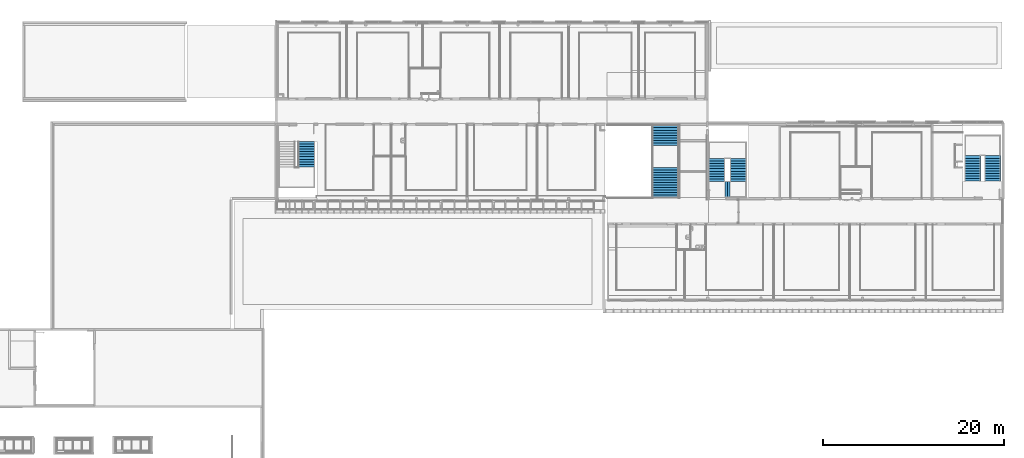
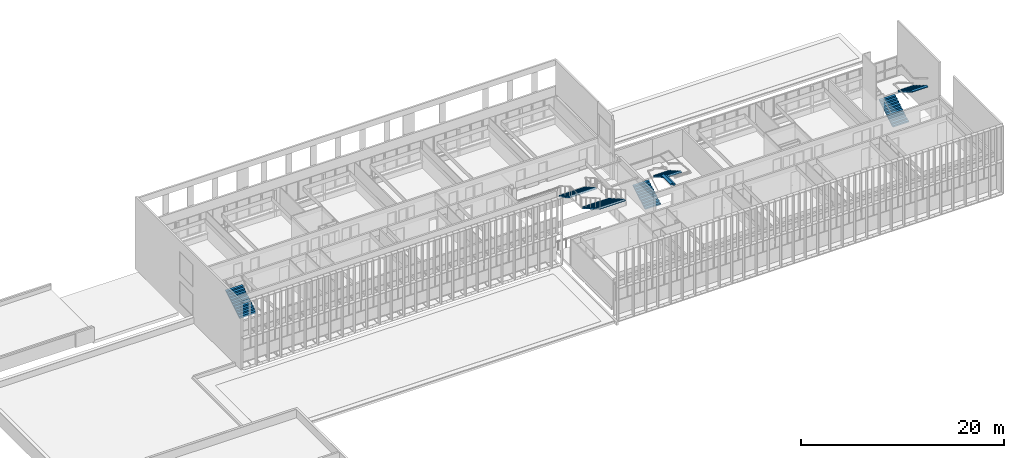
# One storey, part 100 of 106: 8 stair flights, 4 elements without a shape of their own.
"""IFC2X3 building model written with IfcOpenShell, lengths in centimetres."""

from ifc_helpers import new_model, entity, si_unit, converted_unit, derived_unit, direction, frame, origin, place, context, subcontext, project, spatial, faceted_brep, material, element, aggregate, save


model = new_model("IFC2X3")

# Units and contexts
model_context = context("Model", 3, precision=0.001, world=origin(), true_north=direction((6.12303176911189e-17, 1.0)))
body_context = subcontext(model_context, "Body", "Model", "MODEL_VIEW")
ifc_project = project(units=[si_unit("LENGTHUNIT", "METRE", prefix="CENTI"), si_unit("AREAUNIT", "SQUARE_METRE"), si_unit("VOLUMEUNIT", "CUBIC_METRE"), converted_unit("PLANEANGLEUNIT", "DEGREE", entity("IfcRatioMeasure", 0.0174532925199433), si_unit("PLANEANGLEUNIT", "RADIAN"), dimensions=[0, 0, 0, 0, 0, 0, 0]), si_unit("MASSUNIT", "GRAM", prefix="KILO"), derived_unit("MASSDENSITYUNIT", [(si_unit("MASSUNIT", "GRAM", prefix="KILO"), 1), (si_unit("LENGTHUNIT", "METRE"), -3)]), si_unit("TIMEUNIT", "SECOND"), si_unit("FREQUENCYUNIT", "HERTZ"), si_unit("THERMODYNAMICTEMPERATUREUNIT", "DEGREE_CELSIUS"), derived_unit("THERMALTRANSMITTANCEUNIT", [(si_unit("MASSUNIT", "GRAM", prefix="KILO"), 1), (si_unit("THERMODYNAMICTEMPERATUREUNIT", "KELVIN"), -1), (si_unit("TIMEUNIT", "SECOND"), -3)]), derived_unit("VOLUMETRICFLOWRATEUNIT", [(si_unit("LENGTHUNIT", "METRE"), 3), (si_unit("TIMEUNIT", "SECOND"), -1)]), si_unit("ELECTRICCURRENTUNIT", "AMPERE"), si_unit("ELECTRICVOLTAGEUNIT", "VOLT"), si_unit("POWERUNIT", "WATT"), si_unit("FORCEUNIT", "NEWTON", prefix="KILO"), si_unit("ILLUMINANCEUNIT", "LUX"), si_unit("LUMINOUSFLUXUNIT", "LUMEN"), si_unit("LUMINOUSINTENSITYUNIT", "CANDELA"), derived_unit("USERDEFINED", [(si_unit("MASSUNIT", "GRAM", prefix="KILO"), -1), (si_unit("LENGTHUNIT", "METRE"), -2), (si_unit("TIMEUNIT", "SECOND"), 3), (si_unit("LUMINOUSFLUXUNIT", "LUMEN"), 1)]), derived_unit("LINEARVELOCITYUNIT", [(si_unit("LENGTHUNIT", "METRE"), 1), (si_unit("TIMEUNIT", "SECOND"), -1)]), si_unit("PRESSUREUNIT", "PASCAL"), derived_unit("USERDEFINED", [(si_unit("LENGTHUNIT", "METRE"), -2), (si_unit("MASSUNIT", "GRAM", prefix="KILO"), 1), (si_unit("TIMEUNIT", "SECOND"), -2)])], contexts=[model_context])

# Site, building, storey
site_placement = place(None, frame((-2781.94577612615, 7442.24238424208, 0.0)))
site = spatial("IfcSite", under=ifc_project, at=site_placement, Name="Default", CompositionType="ELEMENT")
building_placement = place(site_placement, origin())
building = spatial("IfcBuilding", under=site, at=building_placement, CompositionType="ELEMENT")
storey_placement = place(building_placement, frame((0.0, 0.0, 422.0)))
storey = spatial("IfcBuildingStorey", under=building, at=storey_placement, Name="Toiture - Cuisine", CompositionType="ELEMENT", Elevation=421.999999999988)

# Stair, stair flights
stair_1_placement = place(building_placement, frame((0.0, 0.0, 422.0)))
stair_1 = element("IfcStair", 1, at=stair_1_placement, inside=storey, Name="Escalier coulé sur place:Escalier", ObjectType="Escalier coulé sur place:Monobloc", ShapeType="NOTDEFINED")
ifc_material = material(Name="Maçonnerie - Béton")
stair_flight_1_placement = place(stair_1_placement, frame((-4274.99987968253, -1334.0, 0.0)))
stair_flight_1 = element("IfcStairFlight", 2, at=stair_flight_1_placement, material=ifc_material, Name="Escalier coulé sur place:Escalier:223221 Run 1", ObjectType="Volée monobloc:Profondeur de structure 80 mm", NumberOfRiser=9, NumberOfTreads=8, RiserHeight=0.5249343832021, TreadLength=0.918635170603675, context=body_context, shape_type="Brep", body=[
    faceted_brep([(305.0, 196.0, 16.0), (305.0, 224.0, 16.0), (0.0, 224.0, 16.0), (0.0, 196.0, 16.0), (305.0, 196.0, 6.78599114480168), (305.0, 207.875484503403, 0.0), (305.0, 224.0, 0.0), (0.0, 224.0, 0.0), (0.0, 207.875484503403, 0.0), (0.0, 196.0, 6.78599114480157), (305.0, 168.0, 32.0), (305.0, 196.0, 32.0), (0.0, 196.0, 32.0), (0.0, 168.0, 32.0), (305.0, 168.0, 22.7859911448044), (0.0, 168.0, 22.7859911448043), (305.0, 140.0, 48.0), (305.0, 168.0, 48.0), (0.0, 168.0, 48.0), (0.0, 140.0, 48.0), (305.0, 140.0, 38.7859911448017), (0.0, 140.0, 38.7859911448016), (305.0, 112.0, 64.0), (305.0, 140.0, 64.0), (0.0, 140.0, 64.0), (0.0, 112.0, 64.0), (305.0, 112.0, 54.7859911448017), (0.0, 112.0, 54.7859911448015), (305.0, 84.0, 80.0), (305.0, 112.0, 80.0), (0.0, 112.0, 80.0), (0.0, 84.0, 80.0), (305.0, 84.0, 70.7859911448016), (0.0, 84.0, 70.7859911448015), (305.0, 56.0, 96.0), (305.0, 84.0, 96.0), (0.0, 84.0, 96.0), (0.0, 56.0, 96.0), (305.0, 56.0, 86.7859911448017), (0.0, 56.0, 86.7859911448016), (305.0, 28.0, 112.0), (305.0, 56.0, 112.0), (0.0, 56.0, 112.0), (0.0, 28.0, 112.0), (305.0, 28.0, 102.785991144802), (0.0, 28.0, 102.785991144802), (305.0, 0.0, 128.0), (305.0, 28.0, 128.0), (0.0, 28.0, 128.0), (0.0, 0.0, 128.0), (305.0, 0.0, 118.785991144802), (0.0, 0.0, 118.785991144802)], [[[0, 1, 2, 3]], [[1, 0, 4, 5, 6]], [[2, 1, 6, 7]], [[3, 2, 7, 8, 9]], [[10, 11, 12, 13]], [[11, 10, 14, 4, 0]], [[0, 3, 12, 11]], [[13, 12, 3, 9, 15]], [[16, 17, 18, 19]], [[17, 16, 20, 14, 10]], [[10, 13, 18, 17]], [[19, 18, 13, 15, 21]], [[22, 23, 24, 25]], [[23, 22, 26, 20, 16]], [[16, 19, 24, 23]], [[25, 24, 19, 21, 27]], [[28, 29, 30, 31]], [[29, 28, 32, 26, 22]], [[22, 25, 30, 29]], [[31, 30, 25, 27, 33]], [[34, 35, 36, 37]], [[35, 34, 38, 32, 28]], [[28, 31, 36, 35]], [[37, 36, 31, 33, 39]], [[40, 41, 42, 43]], [[41, 40, 44, 38, 34]], [[34, 37, 42, 41]], [[43, 42, 37, 39, 45]], [[46, 47, 48, 49]], [[47, 46, 50, 44, 40]], [[40, 43, 48, 47]], [[49, 48, 43, 45, 51]], [[46, 49, 51, 50]], [[7, 6, 5, 8]], [[8, 5, 4, 14, 20, 26, 32, 38, 44, 50, 51, 45, 39, 33, 27, 21, 15, 9]]]),
])
stair_flight_2_placement = place(stair_1_placement, frame((-4274.99987968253, -1910.07903364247, 0.0)))
stair_flight_2 = element("IfcStairFlight", 3, at=stair_flight_2_placement, material=ifc_material, Name="Escalier coulé sur place:Escalier:223221 Run 2", ObjectType="Volée monobloc:Profondeur de structure 80 mm", NumberOfRiser=13, NumberOfTreads=12, RiserHeight=0.5249343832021, TreadLength=0.918635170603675, context=body_context, shape_type="Brep", body=[
    faceted_brep([(305.0, 308.0, 160.0), (305.0, 336.0, 160.0), (0.0, 336.0, 160.0), (0.0, 308.0, 160.0), (305.0, 308.0, 150.785991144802), (305.0, 336.0, 134.785991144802), (305.0, 336.0, 144.0), (0.0, 336.0, 134.785991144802), (0.0, 336.0, 144.0), (0.0, 308.0, 150.785991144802), (305.0, 280.0, 176.0), (305.0, 308.0, 176.0), (0.0, 308.0, 176.0), (0.0, 280.0, 176.0), (305.0, 280.0, 166.785991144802), (0.0, 280.0, 166.785991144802), (305.0, 252.0, 192.0), (305.0, 280.0, 192.0), (0.0, 280.0, 192.0), (0.0, 252.0, 192.0), (305.0, 252.0, 182.785991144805), (0.0, 252.0, 182.785991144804), (305.0, 224.0, 208.0), (305.0, 252.0, 208.0), (0.0, 252.0, 208.0), (0.0, 224.0, 208.0), (305.0, 224.0, 198.785991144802), (0.0, 224.0, 198.785991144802), (305.0, 196.0, 224.0), (305.0, 224.0, 224.0), (0.0, 224.0, 224.0), (0.0, 196.0, 224.0), (305.0, 196.0, 214.785991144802), (0.0, 196.0, 214.785991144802), (305.0, 168.0, 240.0), (305.0, 196.0, 240.0), (0.0, 196.0, 240.0), (0.0, 168.0, 240.0), (305.0, 168.0, 230.785991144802), (0.0, 168.0, 230.785991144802), (305.0, 140.0, 256.0), (305.0, 168.0, 256.0), (0.0, 168.0, 256.0), (0.0, 140.0, 256.0), (305.0, 140.0, 246.785991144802), (0.0, 140.0, 246.785991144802), (305.0, 112.0, 272.0), (305.0, 140.0, 272.0), (0.0, 140.0, 272.0), (0.0, 112.0, 272.0), (305.0, 112.0, 262.785991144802), (0.0, 112.0, 262.785991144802), (305.0, 84.0, 278.785991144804), (305.0, 56.0, 294.785991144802), (305.0, 28.0, 310.785991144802), (305.0, 0.0, 326.785991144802), (0.0, 0.0, 326.785991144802), (0.0, 28.0, 310.785991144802), (0.0, 56.0, 294.785991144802), (0.0, 84.0, 278.785991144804), (305.0, 84.0, 288.0), (305.0, 112.0, 288.0), (0.0, 112.0, 288.0), (0.0, 84.0, 288.0), (305.0, 56.0, 304.0), (305.0, 84.0, 304.0), (0.0, 84.0, 304.0), (0.0, 56.0, 304.0), (305.0, 28.0, 320.0), (305.0, 56.0, 320.0), (0.0, 56.0, 320.0), (0.0, 28.0, 320.0), (305.0, 0.0, 336.0), (305.0, 28.0, 336.0), (0.0, 28.0, 336.0), (0.0, 0.0, 336.0)], [[[0, 1, 2, 3]], [[1, 0, 4, 5, 6]], [[2, 1, 6, 5, 7, 8]], [[3, 2, 8, 7, 9]], [[10, 11, 12, 13]], [[11, 10, 14, 4, 0]], [[12, 11, 0, 3]], [[13, 12, 3, 9, 15]], [[16, 17, 18, 19]], [[17, 16, 20, 14, 10]], [[18, 17, 10, 13]], [[19, 18, 13, 15, 21]], [[22, 23, 24, 25]], [[23, 22, 26, 20, 16]], [[24, 23, 16, 19]], [[25, 24, 19, 21, 27]], [[28, 29, 30, 31]], [[29, 28, 32, 26, 22]], [[30, 29, 22, 25]], [[31, 30, 25, 27, 33]], [[34, 35, 36, 37]], [[35, 34, 38, 32, 28]], [[36, 35, 28, 31]], [[37, 36, 31, 33, 39]], [[40, 41, 42, 43]], [[41, 40, 44, 38, 34]], [[42, 41, 34, 37]], [[43, 42, 37, 39, 45]], [[46, 47, 48, 49]], [[47, 46, 50, 44, 40]], [[48, 47, 40, 43]], [[49, 48, 43, 45, 51]], [[5, 4, 14, 20, 26, 32, 38, 44, 50, 52, 53, 54, 55, 56, 57, 58, 59, 51, 45, 39, 33, 27, 21, 15, 9, 7]], [[60, 61, 62, 63]], [[61, 60, 52, 50, 46]], [[62, 61, 46, 49]], [[63, 62, 49, 51, 59]], [[64, 65, 66, 67]], [[65, 64, 53, 52, 60]], [[66, 65, 60, 63]], [[67, 66, 63, 59, 58]], [[68, 69, 70, 71]], [[69, 68, 54, 53, 64]], [[70, 69, 64, 67]], [[71, 70, 67, 58, 57]], [[72, 73, 74, 75]], [[73, 72, 55, 54, 68]], [[74, 73, 68, 71]], [[75, 74, 71, 57, 56]], [[72, 75, 56, 55]]]),
])
aggregate(stair_1, [stair_flight_1, stair_flight_2])

stair_2_placement = place(building_placement, frame((0.0, 0.0, 422.0)))
stair_2 = element("IfcStair", 4, at=stair_2_placement, inside=storey, Name="Escalier coulé sur place:Escalier", ObjectType="Escalier coulé sur place:Monobloc", ShapeType="NOTDEFINED")
stair_flight_3_placement = place(stair_2_placement, frame((-605.299882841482, -1726.95903364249, 0.0)))
stair_flight_3 = element("IfcStairFlight", 5, at=stair_flight_3_placement, material=ifc_material, Name="Escalier coulé sur place:Escalier:547910 Run 1", ObjectType="Volée monobloc:Profondeur de structure 80 mm", NumberOfRiser=11, NumberOfTreads=10, RiserHeight=0.549931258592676, TreadLength=0.918635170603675, context=body_context, shape_type="Brep", body=[
    faceted_brep([(180.0, 252.0, 201.142857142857), (180.0, 280.0, 201.142857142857), (0.0, 280.0, 201.142857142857), (0.0, 252.0, 201.142857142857), (180.0, 252.0, 191.818929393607), (180.0, 280.0, 175.057024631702), (180.0, 280.0, 184.380952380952), (0.0, 280.0, 175.057024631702), (0.0, 252.0, 191.818929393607), (180.0, 224.0, 217.904761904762), (180.0, 252.0, 217.904761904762), (0.0, 252.0, 217.904761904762), (0.0, 224.0, 217.904761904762), (180.0, 224.0, 208.580834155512), (0.0, 224.0, 208.580834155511), (180.0, 196.0, 234.666666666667), (180.0, 224.0, 234.666666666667), (0.0, 224.0, 234.666666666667), (0.0, 196.0, 234.666666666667), (180.0, 196.0, 225.342738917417), (0.0, 196.0, 225.342738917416), (180.0, 168.0, 251.428571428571), (180.0, 196.0, 251.428571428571), (0.0, 196.0, 251.428571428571), (0.0, 168.0, 251.428571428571), (180.0, 168.0, 242.104643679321), (0.0, 168.0, 242.104643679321), (180.0, 140.0, 268.190476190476), (180.0, 168.0, 268.190476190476), (0.0, 168.0, 268.190476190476), (0.0, 140.0, 268.190476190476), (180.0, 140.0, 258.866548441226), (0.0, 140.0, 258.866548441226), (180.0, 112.0, 284.952380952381), (180.0, 140.0, 284.952380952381), (0.0, 140.0, 284.952380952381), (0.0, 112.0, 284.952380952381), (180.0, 112.0, 275.628453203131), (0.0, 112.0, 275.62845320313), (180.0, 84.0, 301.714285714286), (180.0, 112.0, 301.714285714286), (0.0, 112.0, 301.714285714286), (0.0, 84.0, 301.714285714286), (180.0, 84.0, 292.390357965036), (0.0, 84.0, 292.390357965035), (180.0, 56.0, 318.47619047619), (180.0, 84.0, 318.47619047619), (0.0, 84.0, 318.47619047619), (0.0, 56.0, 318.47619047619), (180.0, 56.0, 309.15226272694), (0.0, 56.0, 309.15226272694), (180.0, 28.0, 335.238095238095), (180.0, 56.0, 335.238095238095), (0.0, 56.0, 335.238095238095), (0.0, 28.0, 335.238095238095), (180.0, 28.0, 325.914167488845), (0.0, 28.0, 325.914167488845), (180.0, 0.0, 352.0), (180.0, 28.0, 352.0), (0.0, 28.0, 352.0), (0.0, 0.0, 352.0), (180.0, 0.0, 342.67607225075), (0.0, 0.0, 342.676072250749)], [[[0, 1, 2, 3]], [[1, 0, 4, 5, 6]], [[2, 1, 6, 5, 7]], [[3, 2, 7, 8]], [[9, 10, 11, 12]], [[10, 9, 13, 4, 0]], [[11, 10, 0, 3]], [[12, 11, 3, 8, 14]], [[15, 16, 17, 18]], [[16, 15, 19, 13, 9]], [[17, 16, 9, 12]], [[18, 17, 12, 14, 20]], [[21, 22, 23, 24]], [[22, 21, 25, 19, 15]], [[23, 22, 15, 18]], [[24, 23, 18, 20, 26]], [[27, 28, 29, 30]], [[28, 27, 31, 25, 21]], [[29, 28, 21, 24]], [[30, 29, 24, 26, 32]], [[33, 34, 35, 36]], [[34, 33, 37, 31, 27]], [[35, 34, 27, 30]], [[36, 35, 30, 32, 38]], [[39, 40, 41, 42]], [[40, 39, 43, 37, 33]], [[41, 40, 33, 36]], [[42, 41, 36, 38, 44]], [[45, 46, 47, 48]], [[46, 45, 49, 43, 39]], [[47, 46, 39, 42]], [[48, 47, 42, 44, 50]], [[51, 52, 53, 54]], [[52, 51, 55, 49, 45]], [[53, 52, 45, 48]], [[54, 53, 48, 50, 56]], [[57, 58, 59, 60]], [[58, 57, 61, 55, 51]], [[59, 58, 51, 54]], [[60, 59, 54, 56, 62]], [[57, 60, 62, 61]], [[5, 4, 13, 19, 25, 31, 37, 43, 49, 55, 61, 62, 56, 50, 44, 38, 32, 26, 20, 14, 8, 7]]]),
])
stair_flight_4_placement = place(stair_2_placement, frame((-825.299882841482, -1726.95903364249, 0.0)))
stair_flight_4 = element("IfcStairFlight", 6, at=stair_flight_4_placement, material=ifc_material, Name="Escalier coulé sur place:Escalier:547910 Run 2", ObjectType="Volée monobloc:Profondeur de structure 80 mm", NumberOfRiser=11, NumberOfTreads=10, RiserHeight=0.549931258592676, TreadLength=0.918635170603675, context=body_context, shape_type="Brep", body=[
    faceted_brep([(0.0, 28.0, 16.7619047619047), (0.0, 0.0, 16.7619047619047), (180.0, 0.0, 16.7619047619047), (180.0, 28.0, 16.7619047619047), (0.0, 28.0, 7.43797701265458), (0.0, 15.5751974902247, 0.0), (0.0, 0.0, 0.0), (180.0, 0.0, 0.0), (180.0, 15.5751974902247, 0.0), (180.0, 28.0, 7.43797701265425), (0.0, 56.0, 33.5238095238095), (0.0, 28.0, 33.5238095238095), (180.0, 28.0, 33.5238095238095), (180.0, 56.0, 33.5238095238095), (0.0, 56.0, 24.199881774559), (180.0, 56.0, 24.1998817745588), (0.0, 84.0, 50.2857142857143), (0.0, 56.0, 50.2857142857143), (180.0, 56.0, 50.2857142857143), (180.0, 84.0, 50.2857142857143), (0.0, 84.0, 40.9617865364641), (180.0, 84.0, 40.9617865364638), (0.0, 112.0, 67.0476190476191), (0.0, 84.0, 67.0476190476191), (180.0, 84.0, 67.0476190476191), (180.0, 112.0, 67.0476190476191), (0.0, 112.0, 57.7236912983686), (180.0, 112.0, 57.7236912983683), (0.0, 140.0, 83.8095238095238), (0.0, 112.0, 83.8095238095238), (180.0, 112.0, 83.8095238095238), (180.0, 140.0, 83.8095238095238), (0.0, 140.0, 74.4855960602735), (180.0, 140.0, 74.4855960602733), (0.0, 168.0, 100.571428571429), (0.0, 140.0, 100.571428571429), (180.0, 140.0, 100.571428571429), (180.0, 168.0, 100.571428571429), (0.0, 168.0, 91.2475008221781), (180.0, 168.0, 91.2475008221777), (0.0, 196.0, 117.333333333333), (0.0, 168.0, 117.333333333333), (180.0, 168.0, 117.333333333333), (180.0, 196.0, 117.333333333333), (0.0, 196.0, 108.009405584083), (180.0, 196.0, 108.009405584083), (0.0, 224.0, 134.095238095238), (0.0, 196.0, 134.095238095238), (180.0, 196.0, 134.095238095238), (180.0, 224.0, 134.095238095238), (0.0, 224.0, 124.771310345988), (180.0, 224.0, 124.771310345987), (0.0, 252.0, 150.857142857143), (0.0, 224.0, 150.857142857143), (180.0, 224.0, 150.857142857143), (180.0, 252.0, 150.857142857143), (0.0, 252.0, 141.533215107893), (180.0, 252.0, 141.533215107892), (0.0, 280.0, 167.619047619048), (0.0, 252.0, 167.619047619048), (180.0, 252.0, 167.619047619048), (180.0, 280.0, 167.619047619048), (0.0, 280.0, 158.295119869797), (180.0, 280.0, 158.295119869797), (180.0, 280.0, 164.380952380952)], [[[0, 1, 2, 3]], [[1, 0, 4, 5, 6]], [[2, 1, 6, 7]], [[3, 2, 7, 8, 9]], [[10, 11, 12, 13]], [[11, 10, 14, 4, 0]], [[0, 3, 12, 11]], [[13, 12, 3, 9, 15]], [[16, 17, 18, 19]], [[17, 16, 20, 14, 10]], [[10, 13, 18, 17]], [[19, 18, 13, 15, 21]], [[22, 23, 24, 25]], [[23, 22, 26, 20, 16]], [[16, 19, 24, 23]], [[25, 24, 19, 21, 27]], [[28, 29, 30, 31]], [[29, 28, 32, 26, 22]], [[22, 25, 30, 29]], [[31, 30, 25, 27, 33]], [[34, 35, 36, 37]], [[35, 34, 38, 32, 28]], [[28, 31, 36, 35]], [[37, 36, 31, 33, 39]], [[40, 41, 42, 43]], [[41, 40, 44, 38, 34]], [[34, 37, 42, 41]], [[43, 42, 37, 39, 45]], [[46, 47, 48, 49]], [[47, 46, 50, 44, 40]], [[40, 43, 48, 47]], [[49, 48, 43, 45, 51]], [[52, 53, 54, 55]], [[53, 52, 56, 50, 46]], [[46, 49, 54, 53]], [[55, 54, 49, 51, 57]], [[58, 59, 60, 61]], [[59, 58, 62, 56, 52]], [[52, 55, 60, 59]], [[61, 60, 55, 57, 63, 64]], [[58, 61, 64, 63, 62]], [[7, 6, 5, 8]], [[8, 5, 4, 14, 20, 26, 32, 38, 44, 50, 56, 62, 63, 57, 51, 45, 39, 33, 27, 21, 15, 9]]]),
])
aggregate(stair_2, [stair_flight_3, stair_flight_4])

# Stair, stair flight
stair_3_placement = place(building_placement, frame((0.0, 0.0, 422.0)))
stair_3 = element("IfcStair", 7, at=stair_3_placement, inside=storey, Name="Escalier coulé sur place:Escalier", ObjectType="Escalier coulé sur place:Monobloc", ShapeType="NOTDEFINED")
stair_flight_5_placement = place(stair_3_placement, frame((-8176.49987760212, -1570.0, 0.0)))
stair_flight_5 = element("IfcStairFlight", 8, at=stair_flight_5_placement, material=ifc_material, Name="Escalier coulé sur place:Escalier:549512 Run 2", ObjectType="Volée monobloc:Profondeur de structure 80 mm", NumberOfRiser=11, NumberOfTreads=10, RiserHeight=0.549931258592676, TreadLength=0.918635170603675, context=body_context, shape_type="Brep", body=[
    faceted_brep([(0.0, 28.0, 201.142857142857), (0.0, 0.0, 201.142857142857), (190.0, 0.0, 201.142857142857), (190.0, 28.0, 201.142857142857), (0.0, 28.0, 191.818929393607), (0.0, 0.0, 175.057024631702), (190.0, 0.0, 175.057024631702), (190.0, 0.0, 184.380952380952), (190.0, 28.0, 191.818929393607), (0.0, 56.0, 217.904761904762), (0.0, 28.0, 217.904761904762), (190.0, 28.0, 217.904761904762), (190.0, 56.0, 217.904761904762), (0.0, 56.0, 208.580834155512), (190.0, 56.0, 208.580834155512), (0.0, 84.0, 234.666666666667), (0.0, 56.0, 234.666666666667), (190.0, 56.0, 234.666666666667), (190.0, 84.0, 234.666666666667), (0.0, 84.0, 225.342738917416), (190.0, 84.0, 225.342738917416), (0.0, 112.0, 251.428571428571), (0.0, 84.0, 251.428571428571), (190.0, 84.0, 251.428571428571), (190.0, 112.0, 251.428571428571), (0.0, 112.0, 242.104643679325), (190.0, 112.0, 242.104643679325), (0.0, 140.0, 268.190476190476), (0.0, 112.0, 268.190476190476), (190.0, 112.0, 268.190476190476), (190.0, 140.0, 268.190476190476), (0.0, 140.0, 258.866548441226), (190.0, 140.0, 258.866548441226), (0.0, 168.0, 284.952380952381), (0.0, 140.0, 284.952380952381), (190.0, 140.0, 284.952380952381), (190.0, 168.0, 284.952380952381), (0.0, 168.0, 275.62845320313), (190.0, 168.0, 275.628453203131), (0.0, 196.0, 301.714285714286), (0.0, 168.0, 301.714285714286), (190.0, 168.0, 301.714285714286), (190.0, 196.0, 301.714285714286), (0.0, 196.0, 292.390357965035), (190.0, 196.0, 292.390357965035), (0.0, 224.0, 318.47619047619), (0.0, 196.0, 318.47619047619), (190.0, 196.0, 318.47619047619), (190.0, 224.0, 318.47619047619), (0.0, 224.0, 309.15226272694), (190.0, 224.0, 309.15226272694), (0.0, 252.0, 335.238095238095), (0.0, 224.0, 335.238095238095), (190.0, 224.0, 335.238095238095), (190.0, 252.0, 335.238095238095), (0.0, 252.0, 325.914167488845), (190.0, 252.0, 325.914167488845), (0.0, 280.0, 352.0), (0.0, 252.0, 352.0), (190.0, 252.0, 352.0), (190.0, 280.0, 352.0), (0.0, 280.0, 342.676072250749), (190.0, 280.0, 342.67607225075)], [[[0, 1, 2, 3]], [[1, 0, 4, 5]], [[2, 1, 5, 6, 7]], [[3, 2, 7, 6, 8]], [[9, 10, 11, 12]], [[10, 9, 13, 4, 0]], [[11, 10, 0, 3]], [[12, 11, 3, 8, 14]], [[15, 16, 17, 18]], [[16, 15, 19, 13, 9]], [[17, 16, 9, 12]], [[18, 17, 12, 14, 20]], [[21, 22, 23, 24]], [[22, 21, 25, 19, 15]], [[23, 22, 15, 18]], [[24, 23, 18, 20, 26]], [[27, 28, 29, 30]], [[28, 27, 31, 25, 21]], [[29, 28, 21, 24]], [[30, 29, 24, 26, 32]], [[33, 34, 35, 36]], [[34, 33, 37, 31, 27]], [[35, 34, 27, 30]], [[36, 35, 30, 32, 38]], [[39, 40, 41, 42]], [[40, 39, 43, 37, 33]], [[41, 40, 33, 36]], [[42, 41, 36, 38, 44]], [[45, 46, 47, 48]], [[46, 45, 49, 43, 39]], [[47, 46, 39, 42]], [[48, 47, 42, 44, 50]], [[51, 52, 53, 54]], [[52, 51, 55, 49, 45]], [[53, 52, 45, 48]], [[54, 53, 48, 50, 56]], [[57, 58, 59, 60]], [[58, 57, 61, 55, 51]], [[59, 58, 51, 54]], [[60, 59, 54, 56, 62]], [[57, 60, 62, 61]], [[5, 4, 13, 19, 25, 31, 37, 43, 49, 55, 61, 62, 56, 50, 44, 38, 32, 26, 20, 14, 8, 6]]]),
])
aggregate(stair_3, [stair_flight_5])

# Stair, stair flights
stair_4_placement = place(building_placement, frame((0.0, 0.0, 422.0)))
stair_4 = element("IfcStair", 9, at=stair_4_placement, inside=storey, Name="Escalier coulé sur place:Escalier", ObjectType="Escalier coulé sur place:Monobloc", ShapeType="NOTDEFINED")
stair_flight_6_placement = place(stair_4_placement, frame((-3647.99987968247, -1730.07903364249, 0.0)))
stair_flight_6 = element("IfcStairFlight", 10, at=stair_flight_6_placement, material=ifc_material, Name="Escalier coulé sur place:Escalier:1920743 Run 1", ObjectType="Volée monobloc:Profondeur de structure 80 mm", NumberOfRiser=10, NumberOfTreads=9, RiserHeight=0.528871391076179, TreadLength=0.918635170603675, context=body_context, shape_type="Brep", body=[
    faceted_brep([(0.0, 28.0, 16.1200000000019), (0.0, 0.0, 16.1200000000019), (180.0, 0.0, 16.1200000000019), (180.0, 28.0, 16.1200000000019), (0.0, 28.0, 6.88893266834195), (0.0, 16.034111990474, 0.0), (0.0, 0.0, 0.0), (180.0, 0.0, 0.0), (180.0, 16.0341119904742, 0.0), (180.0, 28.0, 6.88893266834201), (0.0, 56.0, 32.2400000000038), (0.0, 28.0, 32.2400000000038), (180.0, 28.0, 32.2400000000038), (180.0, 56.0, 32.2400000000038), (0.0, 56.0, 23.008932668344), (180.0, 56.0, 23.008932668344), (0.0, 84.0, 48.3600000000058), (0.0, 56.0, 48.3600000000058), (180.0, 56.0, 48.3600000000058), (180.0, 84.0, 48.3600000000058), (0.0, 84.0, 39.128932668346), (180.0, 84.0, 39.1289326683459), (0.0, 112.0, 64.4800000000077), (0.0, 84.0, 64.4800000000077), (180.0, 84.0, 64.4800000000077), (180.0, 112.0, 64.4800000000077), (0.0, 112.0, 55.2489326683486), (180.0, 112.0, 55.2489326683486), (0.0, 140.0, 80.6000000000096), (0.0, 112.0, 80.6000000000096), (180.0, 112.0, 80.6000000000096), (180.0, 140.0, 80.6000000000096), (0.0, 140.0, 71.3689326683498), (180.0, 140.0, 71.3689326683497), (0.0, 168.0, 96.7200000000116), (0.0, 140.0, 96.7200000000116), (180.0, 140.0, 96.7200000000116), (180.0, 168.0, 96.7200000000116), (0.0, 168.0, 87.4889326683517), (180.0, 168.0, 87.4889326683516), (0.0, 196.0, 112.840000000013), (0.0, 168.0, 112.840000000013), (180.0, 168.0, 112.840000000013), (180.0, 196.0, 112.840000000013), (0.0, 196.0, 103.608932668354), (180.0, 196.0, 103.608932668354), (0.0, 224.0, 128.960000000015), (0.0, 196.0, 128.960000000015), (180.0, 196.0, 128.960000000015), (180.0, 224.0, 128.960000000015), (0.0, 224.0, 119.728932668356), (180.0, 224.0, 119.728932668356), (0.0, 252.0, 145.080000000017), (0.0, 224.0, 145.080000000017), (180.0, 224.0, 145.080000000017), (180.0, 252.0, 145.080000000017), (0.0, 252.0, 135.848932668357), (180.0, 252.0, 135.848932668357), (180.0, 252.0, 141.200000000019)], [[[0, 1, 2, 3]], [[1, 0, 4, 5, 6]], [[2, 1, 6, 7]], [[3, 2, 7, 8, 9]], [[10, 11, 12, 13]], [[11, 10, 14, 4, 0]], [[0, 3, 12, 11]], [[13, 12, 3, 9, 15]], [[16, 17, 18, 19]], [[17, 16, 20, 14, 10]], [[10, 13, 18, 17]], [[19, 18, 13, 15, 21]], [[22, 23, 24, 25]], [[23, 22, 26, 20, 16]], [[16, 19, 24, 23]], [[25, 24, 19, 21, 27]], [[28, 29, 30, 31]], [[29, 28, 32, 26, 22]], [[22, 25, 30, 29]], [[31, 30, 25, 27, 33]], [[34, 35, 36, 37]], [[35, 34, 38, 32, 28]], [[28, 31, 36, 35]], [[37, 36, 31, 33, 39]], [[40, 41, 42, 43]], [[41, 40, 44, 38, 34]], [[34, 37, 42, 41]], [[43, 42, 37, 39, 45]], [[46, 47, 48, 49]], [[47, 46, 50, 44, 40]], [[40, 43, 48, 47]], [[49, 48, 43, 45, 51]], [[52, 53, 54, 55]], [[53, 52, 56, 50, 46]], [[46, 49, 54, 53]], [[55, 54, 49, 51, 57, 58]], [[52, 55, 58, 57, 56]], [[7, 6, 5, 8]], [[8, 5, 4, 14, 20, 26, 32, 38, 44, 50, 56, 57, 51, 45, 39, 33, 27, 21, 15, 9]]]),
])
stair_flight_7_placement = place(stair_4_placement, frame((-3409.29988284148, -1730.07903364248, 0.0)))
stair_flight_7 = element("IfcStairFlight", 11, at=stair_flight_7_placement, material=ifc_material, Name="Escalier coulé sur place:Escalier:1920743 Run 2", ObjectType="Volée monobloc:Profondeur de structure 80 mm", NumberOfRiser=10, NumberOfTreads=9, RiserHeight=0.528871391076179, TreadLength=0.918635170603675, context=body_context, shape_type="Brep", body=[
    faceted_brep([(180.0, 224.0, 177.320000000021), (180.0, 252.0, 177.320000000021), (0.0, 252.0, 177.320000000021), (0.0, 224.0, 177.320000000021), (180.0, 224.0, 168.088932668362), (180.0, 252.0, 151.968932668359), (180.0, 252.0, 161.200000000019), (0.0, 252.0, 151.968932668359), (0.0, 224.0, 168.088932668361), (180.0, 196.0, 193.440000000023), (180.0, 224.0, 193.440000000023), (0.0, 224.0, 193.440000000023), (0.0, 196.0, 193.440000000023), (180.0, 196.0, 184.208932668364), (0.0, 196.0, 184.208932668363), (180.0, 168.0, 209.560000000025), (180.0, 196.0, 209.560000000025), (0.0, 196.0, 209.560000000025), (0.0, 168.0, 209.560000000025), (180.0, 168.0, 200.328932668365), (0.0, 168.0, 200.328932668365), (180.0, 140.0, 225.680000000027), (180.0, 168.0, 225.680000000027), (0.0, 168.0, 225.680000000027), (0.0, 140.0, 225.680000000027), (180.0, 140.0, 216.448932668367), (0.0, 140.0, 216.448932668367), (180.0, 112.0, 241.800000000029), (180.0, 140.0, 241.800000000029), (0.0, 140.0, 241.800000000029), (0.0, 112.0, 241.800000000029), (180.0, 112.0, 232.56893266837), (0.0, 112.0, 232.56893266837), (180.0, 84.0, 257.920000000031), (180.0, 112.0, 257.920000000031), (0.0, 112.0, 257.920000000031), (0.0, 84.0, 257.920000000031), (180.0, 84.0, 248.688932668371), (0.0, 84.0, 248.688932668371), (180.0, 56.0, 274.040000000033), (180.0, 84.0, 274.040000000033), (0.0, 84.0, 274.040000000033), (0.0, 56.0, 274.040000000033), (180.0, 56.0, 264.808932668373), (0.0, 56.0, 264.808932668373), (180.0, 28.0, 290.160000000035), (180.0, 56.0, 290.160000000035), (0.0, 56.0, 290.160000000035), (0.0, 28.0, 290.160000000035), (180.0, 28.0, 280.928932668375), (0.0, 28.0, 280.928932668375), (180.0, 0.0, 306.280000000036), (180.0, 28.0, 306.280000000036), (0.0, 28.0, 306.280000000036), (0.0, 0.0, 306.280000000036), (180.0, 0.0, 297.048932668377), (0.0, 0.0, 297.048932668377)], [[[0, 1, 2, 3]], [[1, 0, 4, 5, 6]], [[2, 1, 6, 5, 7]], [[3, 2, 7, 8]], [[9, 10, 11, 12]], [[10, 9, 13, 4, 0]], [[11, 10, 0, 3]], [[12, 11, 3, 8, 14]], [[15, 16, 17, 18]], [[16, 15, 19, 13, 9]], [[17, 16, 9, 12]], [[18, 17, 12, 14, 20]], [[21, 22, 23, 24]], [[22, 21, 25, 19, 15]], [[23, 22, 15, 18]], [[24, 23, 18, 20, 26]], [[27, 28, 29, 30]], [[28, 27, 31, 25, 21]], [[29, 28, 21, 24]], [[30, 29, 24, 26, 32]], [[33, 34, 35, 36]], [[34, 33, 37, 31, 27]], [[35, 34, 27, 30]], [[36, 35, 30, 32, 38]], [[39, 40, 41, 42]], [[40, 39, 43, 37, 33]], [[41, 40, 33, 36]], [[42, 41, 36, 38, 44]], [[45, 46, 47, 48]], [[46, 45, 49, 43, 39]], [[47, 46, 39, 42]], [[48, 47, 42, 44, 50]], [[51, 52, 53, 54]], [[52, 51, 55, 49, 45]], [[53, 52, 45, 48]], [[54, 53, 48, 50, 56]], [[51, 54, 56, 55]], [[5, 4, 13, 19, 25, 31, 37, 43, 49, 55, 56, 50, 44, 38, 32, 26, 20, 14, 8, 7]]]),
])
stair_flight_8_placement = place(stair_4_placement, frame((-3465.29988284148, -1910.07903364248, 0.0)))
stair_flight_8 = element("IfcStairFlight", 12, at=stair_flight_8_placement, material=ifc_material, Name="Escalier coulé sur place:Escalier:1920743 Run 3", ObjectType="Volée monobloc:Profondeur de structure 80 mm", NumberOfRiser=3, NumberOfTreads=2, RiserHeight=0.528871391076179, TreadLength=0.918635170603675, context=body_context, shape_type="Brep", body=[
    faceted_brep([(28.0, 0.0, 338.52000000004), (56.0, 0.0, 338.52000000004), (56.0, 180.0, 338.52000000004), (28.0, 180.0, 338.52000000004), (28.0, 0.0, 329.288932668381), (56.0, 0.0, 313.168932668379), (56.0, 0.0, 322.400000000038), (56.0, 170.705342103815, 313.168932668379), (56.0, 180.0, 313.168932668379), (56.0, 180.0, 322.400000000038), (28.0, 180.0, 329.28893266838), (0.0, 0.0, 345.408932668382), (0.0, 180.0, 345.408932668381), (0.0, 0.0, 354.640000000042), (28.0, 0.0, 354.640000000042), (28.0, 180.0, 354.640000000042), (0.0, 180.0, 354.640000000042)], [[[0, 1, 2, 3]], [[1, 0, 4, 5, 6]], [[2, 1, 6, 5, 7, 8, 9]], [[3, 2, 9, 8, 10]], [[5, 4, 11, 12, 10, 8, 7]], [[13, 14, 15, 16]], [[14, 13, 11, 4, 0]], [[15, 14, 0, 3]], [[16, 15, 3, 10, 12]], [[13, 16, 12, 11]]]),
])
aggregate(stair_4, [stair_flight_6, stair_flight_7, stair_flight_8])

save(model, "model.ifc")
